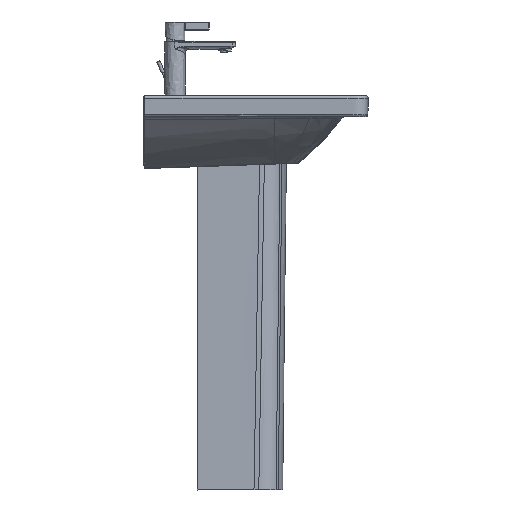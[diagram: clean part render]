
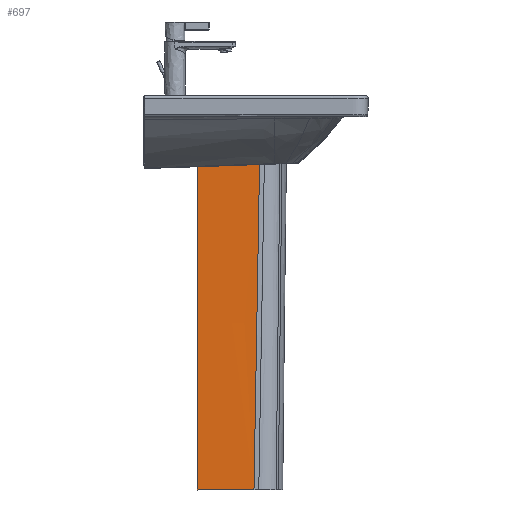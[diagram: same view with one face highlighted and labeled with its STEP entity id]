
A CAD part, left-side view. The second image highlights one B-rep face of the part: STEP entity #697.
In plain terms, the highlighted free-form (B-spline) face has degree [5, 5] with [9, 6] control points.
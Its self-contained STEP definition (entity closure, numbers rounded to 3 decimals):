
#697=ADVANCED_FACE('',(#1333),#9561,.T.);
#1333=FACE_OUTER_BOUND('',#2004,.T.);
#2004=EDGE_LOOP('',(#4994,#4995,#4996,#4997));
#4994=ORIENTED_EDGE('',*,*,#6570,.T.);
#4995=ORIENTED_EDGE('',*,*,#6572,.T.);
#4996=ORIENTED_EDGE('',*,*,#6571,.F.);
#4997=ORIENTED_EDGE('',*,*,#6556,.F.);
#6556=EDGE_CURVE('',#9065,#9051,#8091,.T.);
#6570=EDGE_CURVE('',#9065,#9072,#8105,.T.);
#6571=EDGE_CURVE('',#9051,#9052,#8106,.T.);
#6572=EDGE_CURVE('',#9072,#9052,#8107,.T.);
#8091=B_SPLINE_CURVE_WITH_KNOTS('',5,(#90982,#90983,#90984,#90985,#90986,
#90987,#90988,#90989,#90990,#90991,#90992,#90993,#90994,#90995,#90996,#90997,
#90998,#90999,#91000,#91001,#91002,#91003,#91004,#91005,#91006,#91007,#91008),
 .UNSPECIFIED.,.F.,.F.,(6,3,3,3,3,3,3,3,6),(-1014.293,-939.337,
-737.18,-534.646,-481.407,-329.77,
-152.247,-0.123,0.),.UNSPECIFIED.);
#8105=B_SPLINE_CURVE_WITH_KNOTS('',5,(#91205,#91206,#91207,#91208,#91209,
#91210),.UNSPECIFIED.,.F.,.F.,(6,6),(-44.424,76.24),
 .UNSPECIFIED.);
#8106=B_SPLINE_CURVE_WITH_KNOTS('',5,(#91211,#91212,#91213,#91214,#91215,
#91216),.UNSPECIFIED.,.F.,.F.,(6,6),(-132.778,0.),
 .UNSPECIFIED.);
#8107=B_SPLINE_CURVE_WITH_KNOTS('',5,(#91217,#91218,#91219,#91220,#91221,
#91222,#91223,#91224,#91225),.UNSPECIFIED.,.F.,.F.,(6,3,6),(-715.162,
-357.581,0.),.UNSPECIFIED.);
#9051=VERTEX_POINT('',#90706);
#9052=VERTEX_POINT('',#90707);
#9065=VERTEX_POINT('',#90720);
#9072=VERTEX_POINT('',#90727);
#9561=B_SPLINE_SURFACE_WITH_KNOTS('',5,5,((#88923,#88924,#88925,#88926,
#88927,#88928),(#88929,#88930,#88931,#88932,#88933,#88934),(#88935,#88936,
#88937,#88938,#88939,#88940),(#88941,#88942,#88943,#88944,#88945,#88946),
(#88947,#88948,#88949,#88950,#88951,#88952),(#88953,#88954,#88955,#88956,
#88957,#88958),(#88959,#88960,#88961,#88962,#88963,#88964),(#88965,#88966,
#88967,#88968,#88969,#88970),(#88971,#88972,#88973,#88974,#88975,#88976)),
 .UNSPECIFIED.,.F.,.F.,.F.,(6,3,6),(6,6),(0.,357.581,715.162),
(-86.45,76.24),.UNSPECIFIED.);
#88923=CARTESIAN_POINT('',(-85.765,154.916,-44.927));
#88924=CARTESIAN_POINT('',(-85.265,122.363,-44.927));
#88925=CARTESIAN_POINT('',(-84.765,89.811,-44.927));
#88926=CARTESIAN_POINT('',(-84.265,57.258,-44.927));
#88927=CARTESIAN_POINT('',(-83.765,24.705,-44.927));
#88928=CARTESIAN_POINT('',(-83.265,-7.847,-44.927));
#88929=CARTESIAN_POINT('',(-85.015,156.116,-116.427));
#88930=CARTESIAN_POINT('',(-84.849,123.561,-116.43));
#88931=CARTESIAN_POINT('',(-84.438,91.009,-116.43));
#88932=CARTESIAN_POINT('',(-83.905,58.457,-116.428));
#88933=CARTESIAN_POINT('',(-83.371,25.905,-116.426));
#88934=CARTESIAN_POINT('',(-82.96,-6.647,-116.427));
#88935=CARTESIAN_POINT('',(-84.265,157.316,-187.927));
#88936=CARTESIAN_POINT('',(-84.668,124.765,-187.936));
#88937=CARTESIAN_POINT('',(-84.463,92.219,-187.939));
#88938=CARTESIAN_POINT('',(-83.908,59.674,-187.938));
#88939=CARTESIAN_POINT('',(-83.261,27.129,-187.937));
#88940=CARTESIAN_POINT('',(-82.781,-5.419,-187.938));
#88941=CARTESIAN_POINT('',(-83.515,158.516,-259.427));
#88942=CARTESIAN_POINT('',(-83.321,125.971,-259.43));
#88943=CARTESIAN_POINT('',(-82.679,93.432,-259.426));
#88944=CARTESIAN_POINT('',(-81.865,60.896,-259.419));
#88945=CARTESIAN_POINT('',(-81.157,28.359,-259.412));
#88946=CARTESIAN_POINT('',(-80.83,-4.183,-259.41));
#88947=CARTESIAN_POINT('',(-82.015,160.916,-402.427));
#88948=CARTESIAN_POINT('',(-82.21,128.376,-402.434));
#88949=CARTESIAN_POINT('',(-81.622,95.848,-402.432));
#88950=CARTESIAN_POINT('',(-80.656,63.326,-402.426));
#88951=CARTESIAN_POINT('',(-79.717,30.803,-402.42));
#88952=CARTESIAN_POINT('',(-79.21,-1.727,-402.419));
#88953=CARTESIAN_POINT('',(-80.515,163.316,-545.427));
#88954=CARTESIAN_POINT('',(-80.321,130.784,-545.43));
#88955=CARTESIAN_POINT('',(-79.526,98.266,-545.426));
#88956=CARTESIAN_POINT('',(-78.472,65.754,-545.42));
#88957=CARTESIAN_POINT('',(-77.5,33.242,-545.413));
#88958=CARTESIAN_POINT('',(-76.949,0.722,-545.41));
#88959=CARTESIAN_POINT('',(-79.765,164.516,-616.927));
#88960=CARTESIAN_POINT('',(-80.168,131.986,-616.936));
#88961=CARTESIAN_POINT('',(-79.772,99.469,-616.939));
#88962=CARTESIAN_POINT('',(-78.916,66.957,-616.939));
#88963=CARTESIAN_POINT('',(-77.939,34.446,-616.938));
#88964=CARTESIAN_POINT('',(-77.18,1.929,-616.939));
#88965=CARTESIAN_POINT('',(-79.015,165.716,-688.427));
#88966=CARTESIAN_POINT('',(-78.849,133.189,-688.43));
#88967=CARTESIAN_POINT('',(-78.285,100.671,-688.43));
#88968=CARTESIAN_POINT('',(-77.512,68.157,-688.429));
#88969=CARTESIAN_POINT('',(-76.715,35.644,-688.427));
#88970=CARTESIAN_POINT('',(-76.081,3.127,-688.427));
#88971=CARTESIAN_POINT('',(-78.265,166.916,-759.927));
#88972=CARTESIAN_POINT('',(-77.766,134.398,-759.927));
#88973=CARTESIAN_POINT('',(-77.266,101.88,-759.927));
#88974=CARTESIAN_POINT('',(-76.767,69.363,-759.927));
#88975=CARTESIAN_POINT('',(-76.268,36.845,-759.927));
#88976=CARTESIAN_POINT('',(-75.768,4.327,-759.927));
#90706=CARTESIAN_POINT('',(-85.305,124.916,-44.927));
#90707=CARTESIAN_POINT('',(-83.265,-7.847,-44.927));
#90720=CARTESIAN_POINT('',(-77.62,124.916,-759.927));
#90727=CARTESIAN_POINT('',(-75.768,4.327,-759.927));
#90982=CARTESIAN_POINT('',(-77.62,124.916,-759.927));
#90983=CARTESIAN_POINT('',(-77.763,124.916,-749.329));
#90984=CARTESIAN_POINT('',(-77.913,124.916,-738.731));
#90985=CARTESIAN_POINT('',(-78.065,124.916,-728.134));
#90986=CARTESIAN_POINT('',(-78.619,124.916,-688.954));
#90987=CARTESIAN_POINT('',(-79.132,124.916,-649.773));
#90988=CARTESIAN_POINT('',(-79.451,124.916,-621.105));
#90989=CARTESIAN_POINT('',(-80.029,124.916,-563.884));
#90990=CARTESIAN_POINT('',(-80.583,124.916,-506.664));
#90991=CARTESIAN_POINT('',(-80.876,124.916,-478.208));
#90992=CARTESIAN_POINT('',(-81.292,124.916,-442.044));
#90993=CARTESIAN_POINT('',(-81.697,124.916,-405.88));
#90994=CARTESIAN_POINT('',(-81.759,124.916,-400.24));
#90995=CARTESIAN_POINT('',(-82.071,124.916,-371.272));
#90996=CARTESIAN_POINT('',(-82.375,124.916,-342.305));
#90997=CARTESIAN_POINT('',(-82.613,124.916,-320.814));
#90998=CARTESIAN_POINT('',(-83.149,124.916,-274.274));
#90999=CARTESIAN_POINT('',(-83.696,124.916,-227.734));
#91000=CARTESIAN_POINT('',(-83.982,124.916,-202.722));
#91001=CARTESIAN_POINT('',(-84.462,124.916,-156.113));
#91002=CARTESIAN_POINT('',(-84.844,124.916,-109.502));
#91003=CARTESIAN_POINT('',(-84.999,124.916,-88.033));
#91004=CARTESIAN_POINT('',(-85.143,124.916,-66.506));
#91005=CARTESIAN_POINT('',(-85.304,124.916,-44.979));
#91006=CARTESIAN_POINT('',(-85.304,124.916,-44.976));
#91007=CARTESIAN_POINT('',(-85.304,124.916,-44.951));
#91008=CARTESIAN_POINT('',(-85.305,124.916,-44.927));
#91205=CARTESIAN_POINT('',(-77.62,124.916,-759.927));
#91206=CARTESIAN_POINT('',(-77.25,100.798,-759.927));
#91207=CARTESIAN_POINT('',(-76.879,76.68,-759.927));
#91208=CARTESIAN_POINT('',(-76.509,52.563,-759.927));
#91209=CARTESIAN_POINT('',(-76.139,28.445,-759.927));
#91210=CARTESIAN_POINT('',(-75.768,4.327,-759.927));
#91211=CARTESIAN_POINT('',(-85.305,124.916,-44.927));
#91212=CARTESIAN_POINT('',(-84.897,98.363,-44.927));
#91213=CARTESIAN_POINT('',(-84.489,71.811,-44.927));
#91214=CARTESIAN_POINT('',(-84.081,45.258,-44.927));
#91215=CARTESIAN_POINT('',(-83.673,18.705,-44.927));
#91216=CARTESIAN_POINT('',(-83.265,-7.847,-44.927));
#91217=CARTESIAN_POINT('',(-75.768,4.327,-759.927));
#91218=CARTESIAN_POINT('',(-76.081,3.127,-688.427));
#91219=CARTESIAN_POINT('',(-77.18,1.929,-616.939));
#91220=CARTESIAN_POINT('',(-76.949,0.722,-545.41));
#91221=CARTESIAN_POINT('',(-79.21,-1.727,-402.419));
#91222=CARTESIAN_POINT('',(-80.83,-4.183,-259.41));
#91223=CARTESIAN_POINT('',(-82.781,-5.419,-187.938));
#91224=CARTESIAN_POINT('',(-82.96,-6.647,-116.427));
#91225=CARTESIAN_POINT('',(-83.265,-7.847,-44.927));
